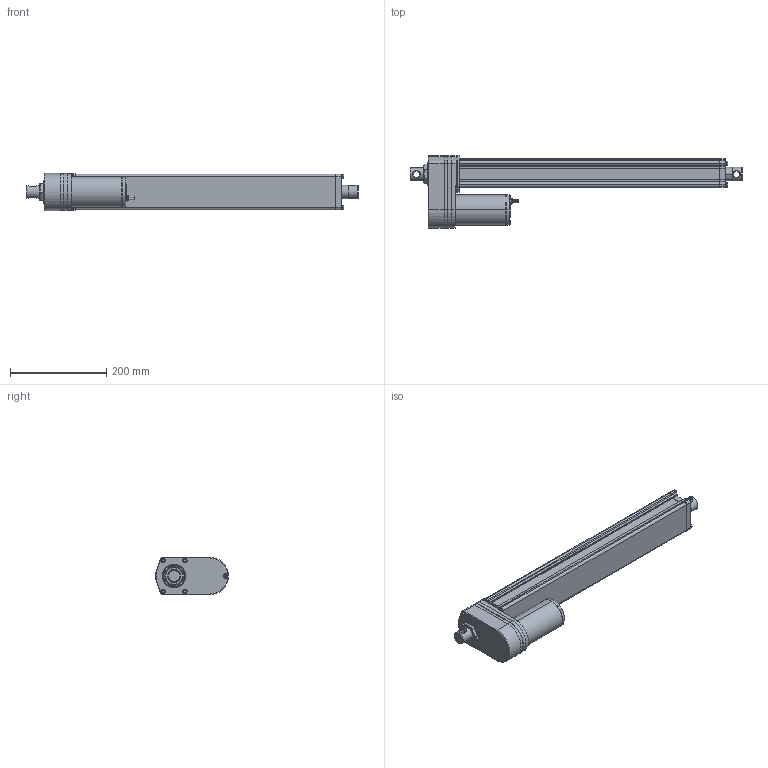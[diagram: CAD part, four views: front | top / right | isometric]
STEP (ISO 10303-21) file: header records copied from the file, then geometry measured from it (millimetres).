
FILE_DESCRIPTION((''),' ');
FILE_NAME('dszy12-450_std.stp',' ',('MSW'),('MSW'),' ','ACIS 14.0',' ');
FILE_SCHEMA(('automotive_design'));
Length unit declared in the file: inch
Products named in the file (2): dszy12-450_std
Bounding box: 691 x 151.7 x 77.2 mm (x, y, z)
Volume: 3014244.2 mm3; surface area: 362185.7 mm2
Topology: 2 solids, 2 shells, 1648 faces, 4015 edges, 2386 vertices
Faces by surface type: plane 1316, cylinder 218, cone 60, torus 30, bspline 24
Entity records: 60917 total; most frequent: CARTESIAN_POINT 8562, DIRECTION 8537, ORIENTED_EDGE 7982, EDGE_CURVE 3991, AXIS2_PLACEMENT_3D 2962, LINE 2613, VECTOR 2613, VERTEX_POINT 2386
